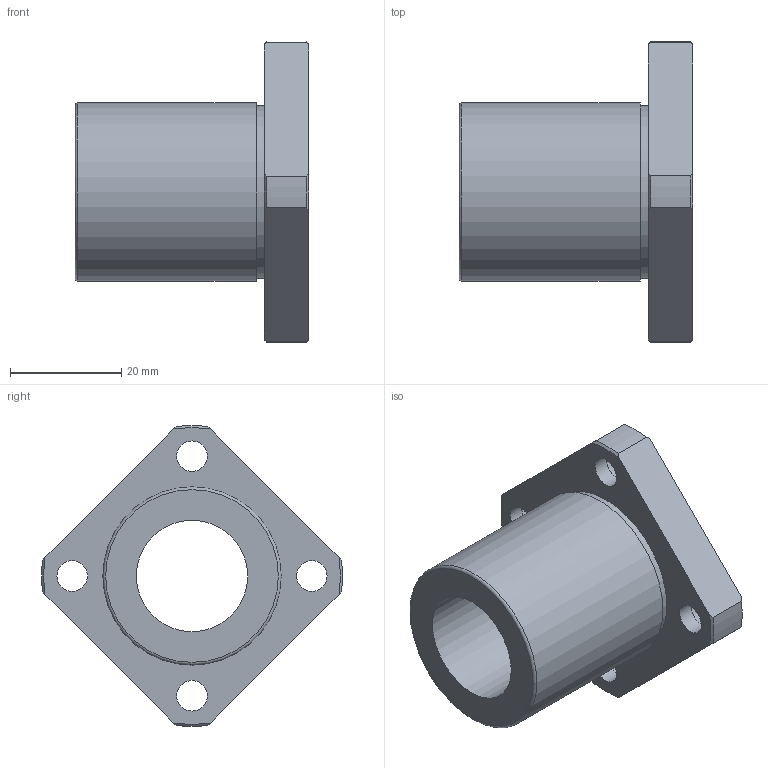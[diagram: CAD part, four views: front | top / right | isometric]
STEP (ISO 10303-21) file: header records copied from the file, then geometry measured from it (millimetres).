
FILE_DESCRIPTION(('STEP AP203'),'1');
FILE_NAME('//192.168.1.1/share/s-4 技術開発/s-4-4_CAD/s-4-4-3_見直し済み/002 修正済み/NF-V/NF-20VUU.step','2022-03-08T06:41:42',(' '),(' '),'Spatial InterOp 3D',' ',' ');
FILE_SCHEMA(('CONFIG_CONTROL_DESIGN'));
Length unit declared in the file: millimetre
Products named in the file (1): 1
Bounding box: 42 x 53.97 x 53.97 mm (x, y, z)
Volume: 26363.5 mm3; surface area: 10812.7 mm2
Topology: 1 solids, 1 shells, 36 faces, 89 edges, 61 vertices
Faces by surface type: cylinder 15, plane 12, cone 8, torus 1
Full cylindrical faces by diameter (mm): 5.5 x4, 9 x4, 20 x1, 31 x1, 32 x1
Entity records: 1026 total; most frequent: CARTESIAN_POINT 195, DIRECTION 168, ORIENTED_EDGE 142, AXIS2_PLACEMENT_3D 76, EDGE_CURVE 71, EDGE_LOOP 64, VERTEX_POINT 55, FACE_OUTER_BOUND 48
